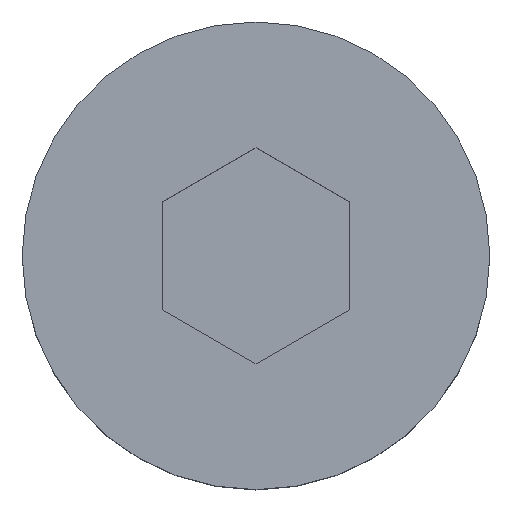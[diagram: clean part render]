
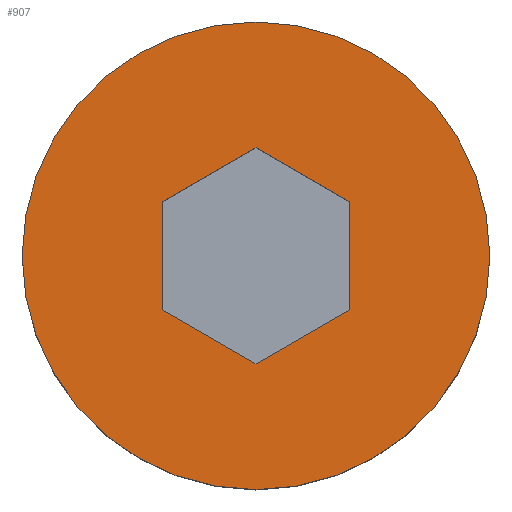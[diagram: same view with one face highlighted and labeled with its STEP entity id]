
A CAD part, top view. The second image highlights one B-rep face of the part: STEP entity #907.
In plain terms, the highlighted planar face has unit normal (0, 0, 1).
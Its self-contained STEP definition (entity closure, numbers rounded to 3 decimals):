
#12 = VERTEX_POINT ( 'NONE', #418 ) ;
#35 = CARTESIAN_POINT ( 'NONE',  ( -4., -2.309, 8. ) ) ;
#38 = DIRECTION ( 'NONE',  ( 0., 1., 0. ) ) ;
#39 = LINE ( 'NONE', #114, #54 ) ;
#51 = DIRECTION ( 'NONE',  ( 1., 0., 0. ) ) ;
#54 = VECTOR ( 'NONE', #109, 1000. ) ;
#62 = AXIS2_PLACEMENT_3D ( 'NONE', #133, #66, #51 ) ;
#66 = DIRECTION ( 'NONE',  ( 0., 0., 1. ) ) ;
#70 = AXIS2_PLACEMENT_3D ( 'NONE', #509, #505, #497 ) ;
#107 = VECTOR ( 'NONE', #295, 1000. ) ;
#109 = DIRECTION ( 'NONE',  ( 0., -1., 0. ) ) ;
#114 = CARTESIAN_POINT ( 'NONE',  ( -4., 0., 8. ) ) ;
#133 = CARTESIAN_POINT ( 'NONE',  ( 0., 0., 8. ) ) ;
#134 = LINE ( 'NONE', #230, #250 ) ;
#152 = VERTEX_POINT ( 'NONE', #1178 ) ;
#166 = LINE ( 'NONE', #582, #263 ) ;
#184 = EDGE_LOOP ( 'NONE', ( #713, #698, #631, #845, #757, #793 ) ) ;
#195 = CARTESIAN_POINT ( 'NONE',  ( 5.5, 7.794, 8. ) ) ;
#206 = DIRECTION ( 'NONE',  ( -0.866, 0.5, 0. ) ) ;
#230 = CARTESIAN_POINT ( 'NONE',  ( 9.5, -0.866, 8. ) ) ;
#240 = CARTESIAN_POINT ( 'NONE',  ( 4., -2.309, 8. ) ) ;
#241 = CIRCLE ( 'NONE', #62, 10. ) ;
#250 = VECTOR ( 'NONE', #206, 1000. ) ;
#252 = LINE ( 'NONE', #481, #979 ) ;
#255 = VERTEX_POINT ( 'NONE', #1194 ) ;
#263 = VECTOR ( 'NONE', #38, 1000. ) ;
#273 = VECTOR ( 'NONE', #696, 1000. ) ;
#282 = CARTESIAN_POINT ( 'NONE',  ( 5.5, -7.794, 8. ) ) ;
#289 = DIRECTION ( 'NONE',  ( 0.866, 0.5, 0. ) ) ;
#290 = VERTEX_POINT ( 'NONE', #920 ) ;
#295 = DIRECTION ( 'NONE',  ( 0.866, -0.5, 0. ) ) ;
#418 = CARTESIAN_POINT ( 'NONE',  ( 0., -4.619, 8. ) ) ;
#481 = CARTESIAN_POINT ( 'NONE',  ( 9.5, 0.866, 8. ) ) ;
#491 = VERTEX_POINT ( 'NONE', #35 ) ;
#497 = DIRECTION ( 'NONE',  ( 1., 0., 0. ) ) ;
#505 = DIRECTION ( 'NONE',  ( 0., 0., 1. ) ) ;
#509 = CARTESIAN_POINT ( 'NONE',  ( 0., 0., 8. ) ) ;
#511 = CIRCLE ( 'NONE', #70, 10. ) ;
#569 = LINE ( 'NONE', #282, #107 ) ;
#582 = CARTESIAN_POINT ( 'NONE',  ( 4., 0., 8. ) ) ;
#611 = CARTESIAN_POINT ( 'NONE',  ( -4., 2.309, 8. ) ) ;
#631 = ORIENTED_EDGE ( 'NONE', *, *, #708, .F. ) ;
#646 = FACE_OUTER_BOUND ( 'NONE', #1185, .T. ) ;
#647 = EDGE_CURVE ( 'NONE', #152, #255, #511, .T. ) ;
#661 = ORIENTED_EDGE ( 'NONE', *, *, #647, .T. ) ;
#681 = ORIENTED_EDGE ( 'NONE', *, *, #694, .T. ) ;
#694 = EDGE_CURVE ( 'NONE', #255, #152, #241, .T. ) ;
#696 = DIRECTION ( 'NONE',  ( -0.866, -0.5, 0. ) ) ;
#698 = ORIENTED_EDGE ( 'NONE', *, *, #702, .F. ) ;
#700 = EDGE_CURVE ( 'NONE', #1071, #1032, #943, .T. ) ;
#702 = EDGE_CURVE ( 'NONE', #290, #1071, #134, .T. ) ;
#708 = EDGE_CURVE ( 'NONE', #886, #290, #166, .T. ) ;
#709 = EDGE_CURVE ( 'NONE', #12, #886, #252, .T. ) ;
#713 = ORIENTED_EDGE ( 'NONE', *, *, #700, .F. ) ;
#717 = EDGE_CURVE ( 'NONE', #491, #12, #569, .T. ) ;
#722 = EDGE_CURVE ( 'NONE', #1032, #491, #39, .T. ) ;
#757 = ORIENTED_EDGE ( 'NONE', *, *, #717, .F. ) ;
#793 = ORIENTED_EDGE ( 'NONE', *, *, #722, .F. ) ;
#845 = ORIENTED_EDGE ( 'NONE', *, *, #709, .F. ) ;
#870 = CARTESIAN_POINT ( 'NONE',  ( 10., 0., 8. ) ) ;
#881 = DIRECTION ( 'NONE',  ( 0., 0., -1. ) ) ;
#886 = VERTEX_POINT ( 'NONE', #240 ) ;
#907 = ADVANCED_FACE ( 'NONE', ( #646, #926 ), #1189, .F. ) ;
#920 = CARTESIAN_POINT ( 'NONE',  ( 4., 2.309, 8. ) ) ;
#922 = DIRECTION ( 'NONE',  ( -1., 0., 0. ) ) ;
#926 = FACE_BOUND ( 'NONE', #184, .T. ) ;
#943 = LINE ( 'NONE', #195, #273 ) ;
#979 = VECTOR ( 'NONE', #289, 1000. ) ;
#991 = AXIS2_PLACEMENT_3D ( 'NONE', #870, #881, #922 ) ;
#1032 = VERTEX_POINT ( 'NONE', #611 ) ;
#1071 = VERTEX_POINT ( 'NONE', #1092 ) ;
#1092 = CARTESIAN_POINT ( 'NONE',  ( 0., 4.619, 8. ) ) ;
#1178 = CARTESIAN_POINT ( 'NONE',  ( 10., 0., 8. ) ) ;
#1185 = EDGE_LOOP ( 'NONE', ( #661, #681 ) ) ;
#1189 = PLANE ( 'NONE',  #991 ) ;
#1194 = CARTESIAN_POINT ( 'NONE',  ( -10., 0., 8. ) ) ;
